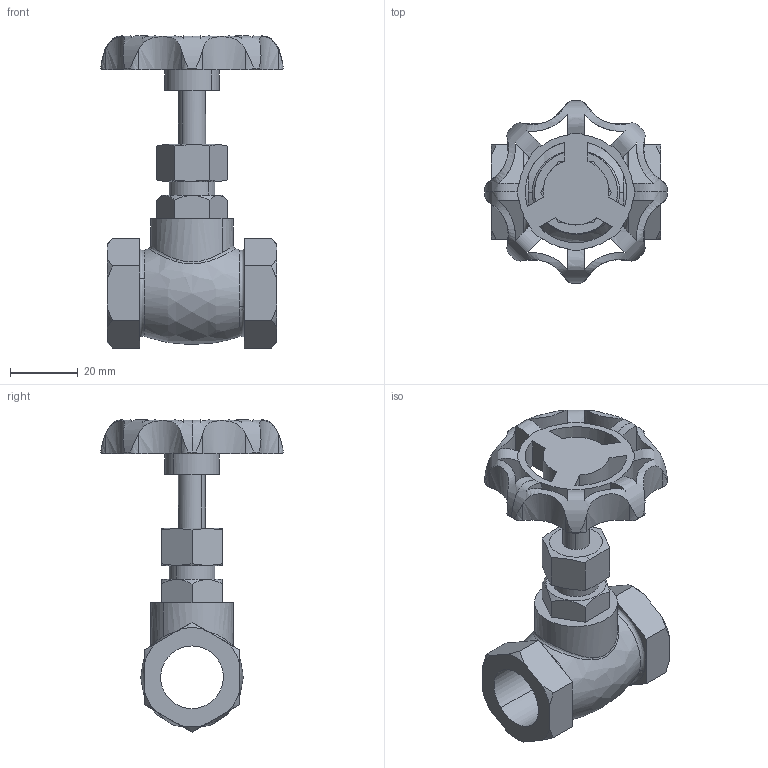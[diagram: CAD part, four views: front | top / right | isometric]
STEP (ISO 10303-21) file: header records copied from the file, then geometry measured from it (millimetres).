
FILE_DESCRIPTION((''),'2;1');
FILE_NAME('','2018-10-23T13:20:22',(''),(''),'','CADfix','');
FILE_SCHEMA(('AUTOMOTIVE_DESIGN { 1 0 10303 214 1 1 1 1 }'));
Length unit declared in the file: millimetre
Bounding box: 53.93 x 53.89 x 92.17 mm (x, y, z)
Volume: 42118.1 mm3; surface area: 19418.5 mm2
Topology: 1 solids, 1 shells, 149 faces, 493 edges, 346 vertices
Faces by surface type: bspline 149
Entity records: 9558 total; most frequent: CARTESIAN_POINT 6698, ORIENTED_EDGE 986, EDGE_CURVE 493, VERTEX_POINT 346, B_SPLINE_CURVE_WITH_KNOTS 295, EDGE_LOOP 173, QUASI_UNIFORM_CURVE 170, FACE_OUTER_BOUND 149
